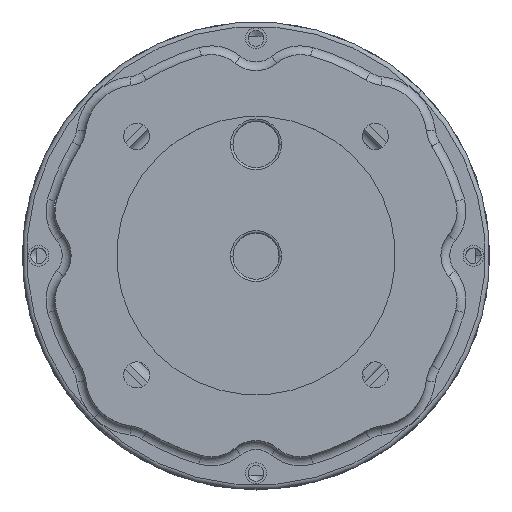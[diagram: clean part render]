
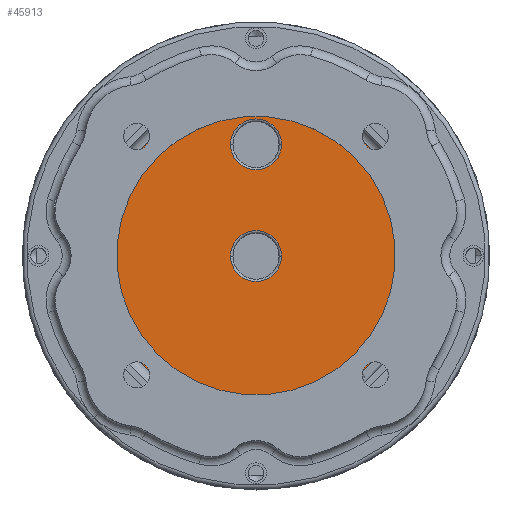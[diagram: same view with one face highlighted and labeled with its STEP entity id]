
A CAD part, top view. The second image highlights one B-rep face of the part: STEP entity #45913.
In plain terms, the highlighted planar face has unit normal (0, 0, 1).
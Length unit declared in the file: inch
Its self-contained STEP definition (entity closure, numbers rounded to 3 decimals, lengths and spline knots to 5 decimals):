
#349 = DIRECTION ( 'NONE',  ( 1., 0., 0. ) ) ;
#4647 = EDGE_CURVE ( 'NONE', #80765, #39520, #82400, .T. ) ;
#6154 = DIRECTION ( 'NONE',  ( 0., 0., 1. ) ) ;
#10667 = EDGE_LOOP ( 'NONE', ( #60604, #62530 ) ) ;
#11637 = DIRECTION ( 'NONE',  ( 1., 0., 0. ) ) ;
#12536 = CARTESIAN_POINT ( 'NONE',  ( -6.3214, -1.79567, 2.82519 ) ) ;
#12907 = CARTESIAN_POINT ( 'NONE',  ( -6.3214, -0.29567, 2.82519 ) ) ;
#14497 = CIRCLE ( 'NONE', #69938, 0.34125 ) ;
#16532 = ORIENTED_EDGE ( 'NONE', *, *, #23479, .F. ) ;
#16969 = ORIENTED_EDGE ( 'NONE', *, *, #29212, .T. ) ;
#18042 = FACE_BOUND ( 'NONE', #10667, .T. ) ;
#18866 = DIRECTION ( 'NONE',  ( 0., 0., -1. ) ) ;
#20123 = DIRECTION ( 'NONE',  ( 1., 0., 0. ) ) ;
#20146 = AXIS2_PLACEMENT_3D ( 'NONE', #41287, #65178, #349 ) ;
#23479 = EDGE_CURVE ( 'NONE', #49537, #75826, #40950, .T. ) ;
#24482 = CIRCLE ( 'NONE', #42059, 0.34125 ) ;
#25532 = DIRECTION ( 'NONE',  ( 0., 0., -1. ) ) ;
#26104 = VERTEX_POINT ( 'NONE', #50173 ) ;
#27675 = EDGE_CURVE ( 'NONE', #70889, #48391, #24482, .T. ) ;
#28691 = CIRCLE ( 'NONE', #72018, 2.115 ) ;
#28790 = DIRECTION ( 'NONE',  ( 1., 0., 0. ) ) ;
#29212 = EDGE_CURVE ( 'NONE', #39520, #75826, #28691, .T. ) ;
#30301 = CARTESIAN_POINT ( 'NONE',  ( -5.98015, -0.29567, 2.82519 ) ) ;
#32835 = CARTESIAN_POINT ( 'NONE',  ( -6.3214, -3.91567, 2.82519 ) ) ;
#33603 = CIRCLE ( 'NONE', #57773, 0.34125 ) ;
#37290 = CARTESIAN_POINT ( 'NONE',  ( -8.4364, -1.79567, 2.82519 ) ) ;
#39520 = VERTEX_POINT ( 'NONE', #37290 ) ;
#39595 = CARTESIAN_POINT ( 'NONE',  ( -6.3214, -0.29567, 2.82519 ) ) ;
#40863 = DIRECTION ( 'NONE',  ( 0., 0., 1. ) ) ;
#40950 = CIRCLE ( 'NONE', #65350, 0.17865 ) ;
#41287 = CARTESIAN_POINT ( 'NONE',  ( -6.3214, -1.79567, 2.82519 ) ) ;
#42059 = AXIS2_PLACEMENT_3D ( 'NONE', #76767, #25532, #50934 ) ;
#43387 = DIRECTION ( 'NONE',  ( 0., 0., -1. ) ) ;
#44295 = DIRECTION ( 'NONE',  ( 1., 0., 0. ) ) ;
#44750 = AXIS2_PLACEMENT_3D ( 'NONE', #12536, #6154, #44295 ) ;
#45607 = CARTESIAN_POINT ( 'NONE',  ( -6.14318, -3.90315, 2.82519 ) ) ;
#45913 = ADVANCED_FACE ( 'NONE', ( #18042, #76473, #57408 ), #64615, .T. ) ;
#46780 = DIRECTION ( 'NONE',  ( 1., 0., 0. ) ) ;
#47507 = ORIENTED_EDGE ( 'NONE', *, *, #53666, .T. ) ;
#48166 = CARTESIAN_POINT ( 'NONE',  ( -4.2064, -1.79567, 2.82519 ) ) ;
#48391 = VERTEX_POINT ( 'NONE', #74614 ) ;
#49537 = VERTEX_POINT ( 'NONE', #45607 ) ;
#50173 = CARTESIAN_POINT ( 'NONE',  ( -6.66265, -0.29567, 2.82519 ) ) ;
#50340 = VERTEX_POINT ( 'NONE', #30301 ) ;
#50934 = DIRECTION ( 'NONE',  ( 1., 0., 0. ) ) ;
#53666 = EDGE_CURVE ( 'NONE', #26104, #50340, #14497, .T. ) ;
#54653 = AXIS2_PLACEMENT_3D ( 'NONE', #59742, #79217, #28790 ) ;
#55183 = CARTESIAN_POINT ( 'NONE',  ( -6.66265, -1.79567, 2.82519 ) ) ;
#57408 = FACE_OUTER_BOUND ( 'NONE', #80562, .T. ) ;
#57773 = AXIS2_PLACEMENT_3D ( 'NONE', #12907, #43387, #11637 ) ;
#58662 = DIRECTION ( 'NONE',  ( 0., 0., 1. ) ) ;
#59071 = DIRECTION ( 'NONE',  ( 0., 0., -1. ) ) ;
#59742 = CARTESIAN_POINT ( 'NONE',  ( -6.3214, -1.79567, 2.82519 ) ) ;
#60604 = ORIENTED_EDGE ( 'NONE', *, *, #70654, .T. ) ;
#62530 = ORIENTED_EDGE ( 'NONE', *, *, #27675, .T. ) ;
#64615 = PLANE ( 'NONE',  #44750 ) ;
#65093 = EDGE_LOOP ( 'NONE', ( #66265, #47507 ) ) ;
#65178 = DIRECTION ( 'NONE',  ( 0., 0., 1. ) ) ;
#65350 = AXIS2_PLACEMENT_3D ( 'NONE', #32835, #58662, #46780 ) ;
#65657 = AXIS2_PLACEMENT_3D ( 'NONE', #76881, #18866, #20123 ) ;
#66265 = ORIENTED_EDGE ( 'NONE', *, *, #76098, .T. ) ;
#67126 = DIRECTION ( 'NONE',  ( 1., 0., 0. ) ) ;
#69492 = EDGE_CURVE ( 'NONE', #49537, #80765, #77669, .T. ) ;
#69938 = AXIS2_PLACEMENT_3D ( 'NONE', #39595, #59071, #78129 ) ;
#70189 = CARTESIAN_POINT ( 'NONE',  ( -6.49961, -3.90315, 2.82519 ) ) ;
#70654 = EDGE_CURVE ( 'NONE', #48391, #70889, #79173, .T. ) ;
#70889 = VERTEX_POINT ( 'NONE', #55183 ) ;
#71304 = ORIENTED_EDGE ( 'NONE', *, *, #4647, .T. ) ;
#72018 = AXIS2_PLACEMENT_3D ( 'NONE', #73052, #40863, #67126 ) ;
#73052 = CARTESIAN_POINT ( 'NONE',  ( -6.3214, -1.79567, 2.82519 ) ) ;
#74614 = CARTESIAN_POINT ( 'NONE',  ( -5.98015, -1.79567, 2.82519 ) ) ;
#74773 = ORIENTED_EDGE ( 'NONE', *, *, #69492, .T. ) ;
#75826 = VERTEX_POINT ( 'NONE', #70189 ) ;
#76098 = EDGE_CURVE ( 'NONE', #50340, #26104, #33603, .T. ) ;
#76473 = FACE_BOUND ( 'NONE', #65093, .T. ) ;
#76767 = CARTESIAN_POINT ( 'NONE',  ( -6.3214, -1.79567, 2.82519 ) ) ;
#76881 = CARTESIAN_POINT ( 'NONE',  ( -6.3214, -1.79567, 2.82519 ) ) ;
#77669 = CIRCLE ( 'NONE', #54653, 2.115 ) ;
#78129 = DIRECTION ( 'NONE',  ( 1., 0., 0. ) ) ;
#79173 = CIRCLE ( 'NONE', #65657, 0.34125 ) ;
#79217 = DIRECTION ( 'NONE',  ( 0., 0., 1. ) ) ;
#80562 = EDGE_LOOP ( 'NONE', ( #16532, #74773, #71304, #16969 ) ) ;
#80765 = VERTEX_POINT ( 'NONE', #48166 ) ;
#82400 = CIRCLE ( 'NONE', #20146, 2.115 ) ;
